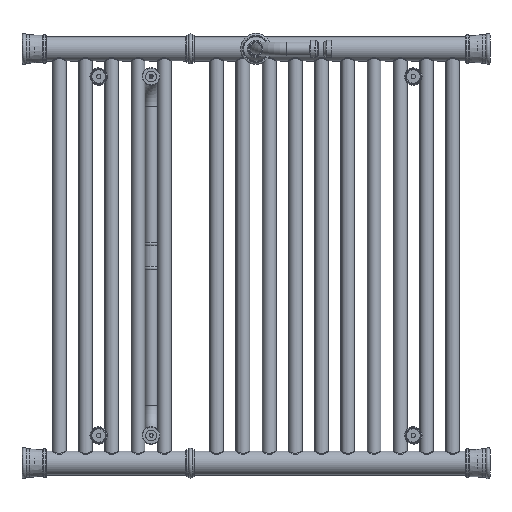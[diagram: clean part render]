
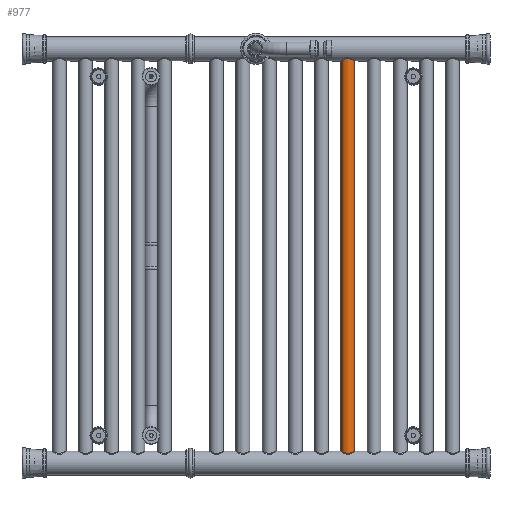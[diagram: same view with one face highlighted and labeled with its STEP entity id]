
A CAD part, left-side view. The second image highlights one B-rep face of the part: STEP entity #977.
In plain terms, the highlighted cylindrical face has radius 10 mm (diameter 20 mm), a full revolution.
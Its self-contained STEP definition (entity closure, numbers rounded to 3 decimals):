
#977 = ADVANCED_FACE( '', ( #2070, #2071 ), #2072, .T. );
#2070 = FACE_OUTER_BOUND( '', #3678, .T. );
#2071 = FACE_OUTER_BOUND( '', #3679, .T. );
#2072 = CYLINDRICAL_SURFACE( '', #3680, 10. );
#3678 = EDGE_LOOP( '', ( #5498 ) );
#3679 = EDGE_LOOP( '', ( #5499 ) );
#3680 = AXIS2_PLACEMENT_3D( '', #5500, #5501, #5502 );
#5498 = ORIENTED_EDGE( '', *, *, #6939, .T. );
#5499 = ORIENTED_EDGE( '', *, *, #7182, .F. );
#5500 = CARTESIAN_POINT( '', ( 292., 0., 0. ) );
#5501 = DIRECTION( '', ( 1., 0., 0. ) );
#5502 = DIRECTION( '', ( 0., 0., 1. ) );
#6939 = EDGE_CURVE( '', #7697, #7697, #7698, .T. );
#7182 = EDGE_CURVE( '', #8093, #8093, #8094, .T. );
#7697 = VERTEX_POINT( '', #10559 );
#7698 = CIRCLE( '', #10560, 10. );
#8093 = VERTEX_POINT( '', #12333 );
#8094 = CIRCLE( '', #12334, 10. );
#10559 = CARTESIAN_POINT( '', ( 292., 10., 0. ) );
#10560 = AXIS2_PLACEMENT_3D( '', #15722, #15723, #15724 );
#12333 = CARTESIAN_POINT( '', ( -292., 10., 0. ) );
#12334 = AXIS2_PLACEMENT_3D( '', #16129, #16130, #16131 );
#15722 = CARTESIAN_POINT( '', ( 292., 0., 0. ) );
#15723 = DIRECTION( '', ( -1., 0., 0. ) );
#15724 = DIRECTION( '', ( 0., 1., 0. ) );
#16129 = CARTESIAN_POINT( '', ( -292., 0., 0. ) );
#16130 = DIRECTION( '', ( -1., 0., 0. ) );
#16131 = DIRECTION( '', ( 0., 1., 0. ) );
